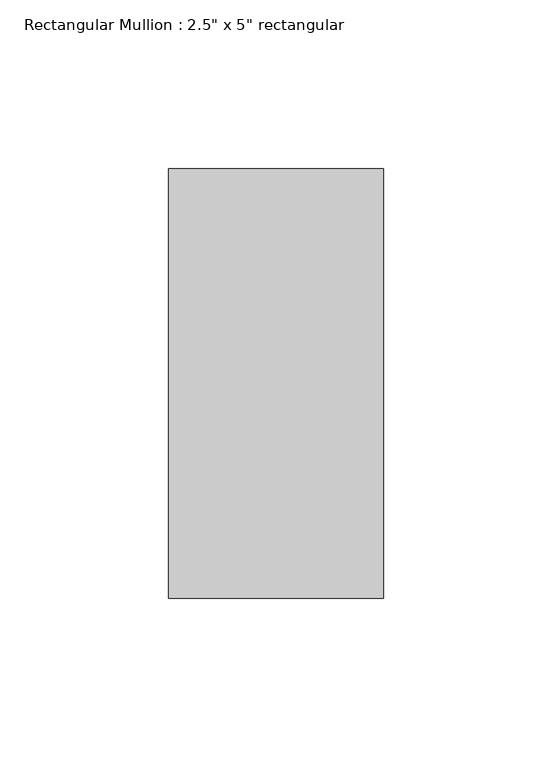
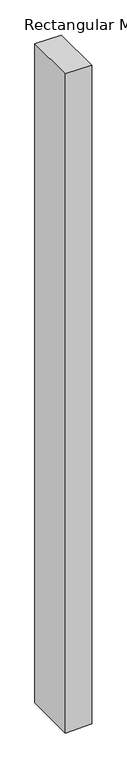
"""IFC4 building model written with IfcOpenShell, lengths in millimetres: member geometry."""

import ifcopenshell
import ifcopenshell.guid

model = None  # the IFC model being written
_history = None  # IfcOwnerHistory: only IFC2X3 demands one
_inside = {}  # id of a spatial element -> (the spatial element, [elements in it])
_under = {}  # id of a project, library or spatial element -> (it, [spatial elements below it])
_declared = {}  # id of a project -> (the project, [libraries it declares])
_typed = {}  # id of a type object -> (the type object, [elements of that type])
_made_of = {}  # id of a material, layer set ... -> (it, [elements and type objects made of it])


def new_model(schema):
    """Start an empty IFC model of exactly this schema.

    Asked for "IFC4X3", IfcOpenShell would pick the latest addendum, in which some entities
    have other attributes; the version numbers below select the first issue.
    IFC2X3 requires an IfcOwnerHistory on every rooted entity: one is made here for all.
    """
    global model, _history
    if schema == "IFC4X3":
        model = ifcopenshell.file(schema_version=(4, 3, 0, 0))
    else:
        model = ifcopenshell.file(schema=schema)
    _inside.clear()
    _under.clear()
    _declared.clear()
    _typed.clear()
    _made_of.clear()
    _history = None
    if model.schema == "IFC2X3":
        org = make("IfcOrganization", Name="unknown")
        user = make(
            "IfcPersonAndOrganization",
            ThePerson=make("IfcPerson", FamilyName="unknown"),
            TheOrganization=org,
        )
        app = make(
            "IfcApplication",
            ApplicationDeveloper=org,
            Version="unknown",
            ApplicationFullName="unknown",
            ApplicationIdentifier="unknown",
        )
        _history = make(
            "IfcOwnerHistory",
            OwningUser=user,
            OwningApplication=app,
            ChangeAction="ADDED",
            CreationDate=0,
        )
    return model


def make(cls, **values):
    """One entity of the class cls with the attributes given. An attribute that is None is left unset."""
    return model.create_entity(
        cls, **{name: value for name, value in values.items() if value is not None}
    )


def rooted(cls, **values):
    """An entity with a GlobalId (a new one), such as an element, a storey or a relation."""
    return make(cls, GlobalId=ifcopenshell.guid.new(), OwnerHistory=_history, **values)


def si_unit(unit_type, name, prefix=None):
    """IfcSIUnit, for example si_unit("LENGTHUNIT", "METRE", prefix="MILLI")."""
    return make("IfcSIUnit", UnitType=unit_type, Prefix=prefix, Name=name)


def assignment(units):
    """IfcUnitAssignment: the units of a project."""
    return None if units is None else make("IfcUnitAssignment", Units=units)


def point(xyz):
    """IfcCartesianPoint."""
    return None if xyz is None else make("IfcCartesianPoint", Coordinates=xyz)


def direction(xyz):
    """IfcDirection."""
    return None if xyz is None else make("IfcDirection", DirectionRatios=xyz)


def frame(location, z_axis=None, x_axis=None):
    """IfcAxis2Placement3D, a coordinate frame: its origin and axes. An axis left out is left unset."""
    return make(
        "IfcAxis2Placement3D",
        Location=point(location),
        Axis=direction(z_axis),
        RefDirection=direction(x_axis),
    )


def origin():
    """The frame at (0, 0, 0) with its axes left unset."""
    return frame((0.0, 0.0, 0.0))


def place(relative_to, where):
    """IfcLocalPlacement: puts the frame where relative to a parent placement (None: the world)."""
    return make(
        "IfcLocalPlacement", PlacementRelTo=relative_to, RelativePlacement=where
    )


def context(
    kind, dimensions, precision=None, world=None, true_north=None, identifier=None
):
    """IfcGeometricRepresentationContext, for example the 3D "Model" context."""
    return make(
        "IfcGeometricRepresentationContext",
        ContextIdentifier=identifier,
        ContextType=kind,
        CoordinateSpaceDimension=dimensions,
        Precision=precision,
        WorldCoordinateSystem=world,
        TrueNorth=true_north,
    )


def project(units=None, contexts=None):
    """IfcProject with its units and contexts."""
    return rooted(
        "IfcProject",
        Name="project",
        RepresentationContexts=contexts,
        UnitsInContext=assignment(units),
    )


def spatial(cls, under=None, at=None, **own):
    """A site, building, storey or space (cls), placed at a placement, below another one or the project."""
    s = rooted(cls, ObjectPlacement=at, **own)
    if under is not None:
        _under.setdefault(under.id(), (under, []))[1].append(s)
    return s


def polyline(points):
    """IfcPolyline through the points."""
    return make("IfcPolyline", Points=[point(p) for p in points])


def outline(outer, holes=None, kind="AREA"):
    """IfcArbitraryClosedProfileDef: a profile drawn as a closed curve; with holes, ...WithVoids."""
    if holes is None:
        return make("IfcArbitraryClosedProfileDef", ProfileType=kind, OuterCurve=outer)
    return make(
        "IfcArbitraryProfileDefWithVoids",
        ProfileType=kind,
        OuterCurve=outer,
        InnerCurves=holes,
    )


def extrude(swept, where, along, depth):
    """IfcExtrudedAreaSolid: the profile swept, set in the frame where, extruded along a direction by depth."""
    return make(
        "IfcExtrudedAreaSolid",
        SweptArea=swept,
        Position=where,
        ExtrudedDirection=direction(along),
        Depth=depth,
    )


def shape(context_of_items, identifier, shape_type, items):
    """IfcShapeRepresentation: the items that make up one representation, for example the "Body"."""
    return make(
        "IfcShapeRepresentation",
        ContextOfItems=context_of_items,
        RepresentationIdentifier=identifier,
        RepresentationType=shape_type,
        Items=items,
    )


def source(mapping_origin, context_of_items, identifier, shape_type, items):
    """IfcRepresentationMap: a shape defined once, which mapped items show again and again."""
    return make(
        "IfcRepresentationMap",
        MappingOrigin=mapping_origin,
        MappedRepresentation=shape(context_of_items, identifier, shape_type, items),
    )


def transform(
    local_origin,
    x_axis=None,
    y_axis=None,
    z_axis=None,
    scale=None,
    scale2=None,
    scale3=None,
    uniform=True,
):
    """IfcCartesianTransformationOperator3D, or its non-uniform kind. x_axis, y_axis, z_axis: its Axis1, 2, 3."""
    if uniform:
        return make(
            "IfcCartesianTransformationOperator3D",
            Axis1=direction(x_axis),
            Axis2=direction(y_axis),
            LocalOrigin=point(local_origin),
            Scale=scale,
            Axis3=direction(z_axis),
        )
    return make(
        "IfcCartesianTransformationOperator3DnonUniform",
        Axis1=direction(x_axis),
        Axis2=direction(y_axis),
        LocalOrigin=point(local_origin),
        Scale=scale,
        Axis3=direction(z_axis),
        Scale2=scale2,
        Scale3=scale3,
    )


def mapped(mapping_source, mapping_target):
    """IfcMappedItem: shows the shape of a source again, moved by a transform."""
    return make(
        "IfcMappedItem", MappingSource=mapping_source, MappingTarget=mapping_target
    )


def made_of(thing, what):
    """Note that an element or type object is made of a material, layer set ...; save() writes the relation."""
    if what is not None:
        _made_of.setdefault(what.id(), (what, []))[1].append(thing)
    return thing


def element(
    cls,
    number,
    at=None,
    inside=None,
    cuts=None,
    type_object=None,
    material=None,
    context=None,
    identifier="Body",
    shape_type=None,
    held_by="IfcProductDefinitionShape",
    body=None,
    shapes=None,
    **own,
):
    """One element of the class cls, such as IfcWall. Its Tag is "e" and its number.

    at: its placement. inside: the storey or other place that contains it. cuts: it is an
    opening in that element (IfcRelVoidsElement). A single representation is given by context,
    identifier, shape_type and body (its items); several are given by shapes. held_by: the class
    of the entity that holds the representations. save() writes the other relations.
    """
    e = rooted(cls, Tag="e%d" % number, ObjectPlacement=at, **own)
    if body is not None:
        shapes = [shape(context, identifier, shape_type, body)]
    if shapes is not None:
        e.Representation = make(held_by, Representations=shapes)
    if inside is not None:
        _inside.setdefault(inside.id(), (inside, []))[1].append(e)
    if cuts is not None:
        rooted(
            "IfcRelVoidsElement", RelatingBuildingElement=cuts, RelatedOpeningElement=e
        )
    if type_object is not None:
        _typed.setdefault(type_object.id(), (type_object, []))[1].append(e)
    return made_of(e, material)


def aggregate(whole, parts):
    """IfcRelAggregates: a whole, such as a stair, and the parts it consists of."""
    return rooted("IfcRelAggregates", RelatingObject=whole, RelatedObjects=parts)


def save(model, path):
    """Write the relations noted so far, then the file.

    IfcRelAggregates (storeys below a building ...), IfcRelContainedInSpatialStructure (elements
    in a storey), IfcRelDefinesByType, IfcRelAssociatesMaterial and IfcRelDeclares: one each for
    every whole, place, type object, material and project.
    """
    for whole, parts in _under.values():
        aggregate(whole, parts)
    for where, things in _inside.values():
        rooted(
            "IfcRelContainedInSpatialStructure",
            RelatedElements=things,
            RelatingStructure=where,
        )
    for kind, things in _typed.values():
        rooted("IfcRelDefinesByType", RelatedObjects=things, RelatingType=kind)
    for what, things in _made_of.values():
        rooted("IfcRelAssociatesMaterial", RelatedObjects=things, RelatingMaterial=what)
    for by, libraries in _declared.values():
        rooted("IfcRelDeclares", RelatingContext=by, RelatedDefinitions=libraries)
    model.write(path)


def member_fb21f5a2(model_context):
    return source(origin(), model_context, "Body", "SweptSolid", [
        extrude(outline(polyline([(0.0, 0.0), (0.6937284, -63.5), (-1678.6592425, -63.5), (-1677.5819972, 0.0), (0.0, 0.0)])), frame((0.0, -63.5, 0.0), z_axis=(0.0, 1.0, 0.0), x_axis=(0.0, 0.0, 1.0)), (0.0, 0.0, 1.0), 127.0),
    ])


if __name__ == "__main__":
    model = new_model("IFC4")
    model_context = context("Model", 3, world=origin())
    ifc_project = project(units=[si_unit("LENGTHUNIT", "METRE", prefix="MILLI")], contexts=[model_context])
    site = spatial("IfcSite", under=ifc_project)
    building = spatial("IfcBuilding", under=site)
    placement = place(None, origin())
    member_shape = member_fb21f5a2(model_context)
    element("IfcMember", 1, ObjectType="Rectangular Mullion : 2.5\" x 5\" rectangular", at=placement, inside=building, context=model_context, shape_type="MappedRepresentation", body=[
        mapped(member_shape, transform((0.0, 0.0, 0.0), x_axis=(1.0, 0.0, 0.0), y_axis=(0.0, 1.0, 0.0), z_axis=(0.0, 0.0, 1.0))),
    ])
    save(model, "model.ifc")
